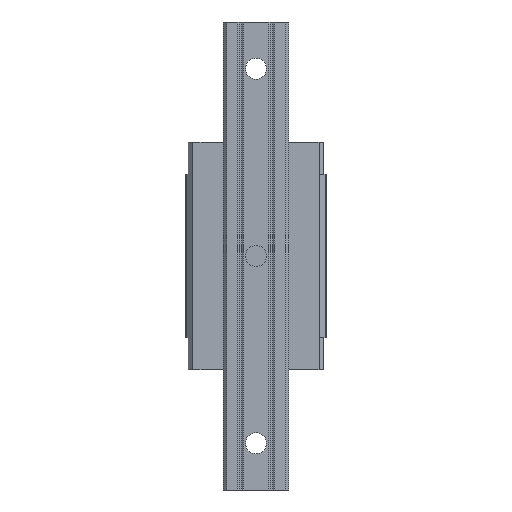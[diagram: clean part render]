
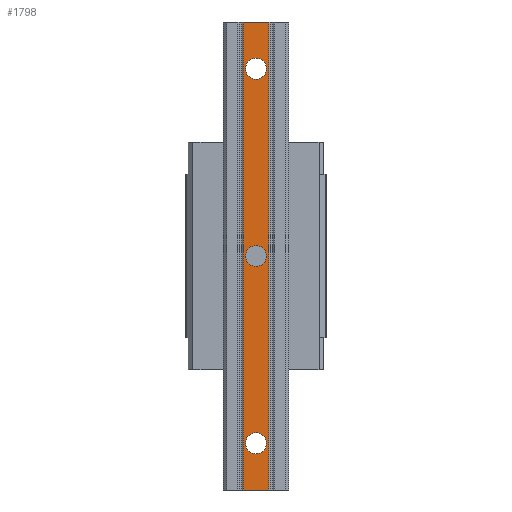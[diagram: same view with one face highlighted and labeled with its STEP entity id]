
A CAD part, front view. The second image highlights one B-rep face of the part: STEP entity #1798.
In plain terms, the highlighted planar face has unit normal (0, -1, 0).
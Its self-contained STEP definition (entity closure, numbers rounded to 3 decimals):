
#53 = CARTESIAN_POINT ( 'NONE',  ( 5.55, -26., -100. ) ) ;
#142 = AXIS2_PLACEMENT_3D ( 'NONE', #4992, #693, #6902 ) ;
#146 = CARTESIAN_POINT ( 'NONE',  ( 5.55, -26., -100. ) ) ;
#158 = EDGE_CURVE ( 'NONE', #3264, #458, #840, .T. ) ;
#160 = VERTEX_POINT ( 'NONE', #7052 ) ;
#181 = DIRECTION ( 'NONE',  ( 1., 0., 0. ) ) ;
#212 = AXIS2_PLACEMENT_3D ( 'NONE', #324, #7981, #970 ) ;
#252 = ORIENTED_EDGE ( 'NONE', *, *, #6882, .T. ) ;
#267 = FACE_OUTER_BOUND ( 'NONE', #5766, .T. ) ;
#287 = EDGE_CURVE ( 'NONE', #5997, #7973, #5306, .T. ) ;
#324 = CARTESIAN_POINT ( 'NONE',  ( 0., -26., -80. ) ) ;
#330 = EDGE_CURVE ( 'NONE', #4136, #695, #5013, .T. ) ;
#333 = VECTOR ( 'NONE', #2527, 1000. ) ;
#391 = DIRECTION ( 'NONE',  ( 0., 1., 0. ) ) ;
#458 = VERTEX_POINT ( 'NONE', #665 ) ;
#465 = AXIS2_PLACEMENT_3D ( 'NONE', #2861, #7346, #3398 ) ;
#470 = ORIENTED_EDGE ( 'NONE', *, *, #6300, .F. ) ;
#665 = CARTESIAN_POINT ( 'NONE',  ( 5.55, -26., 100. ) ) ;
#693 = DIRECTION ( 'NONE',  ( 0., 1., 0. ) ) ;
#695 = VERTEX_POINT ( 'NONE', #3987 ) ;
#702 = EDGE_CURVE ( 'NONE', #5087, #3519, #4218, .T. ) ;
#708 = CARTESIAN_POINT ( 'NONE',  ( 4.5, -26., 0. ) ) ;
#709 = EDGE_CURVE ( 'NONE', #695, #3264, #6445, .T. ) ;
#726 = EDGE_LOOP ( 'NONE', ( #1500, #5403 ) ) ;
#840 = LINE ( 'NONE', #53, #333 ) ;
#858 = ORIENTED_EDGE ( 'NONE', *, *, #4333, .T. ) ;
#895 = CARTESIAN_POINT ( 'NONE',  ( 0., -26., -100. ) ) ;
#933 = CIRCLE ( 'NONE', #5513, 4.5 ) ;
#970 = DIRECTION ( 'NONE',  ( -1., 0., 0. ) ) ;
#1150 = VERTEX_POINT ( 'NONE', #708 ) ;
#1374 = CARTESIAN_POINT ( 'NONE',  ( 0., -26., 80. ) ) ;
#1495 = FACE_BOUND ( 'NONE', #6266, .T. ) ;
#1500 = ORIENTED_EDGE ( 'NONE', *, *, #5929, .T. ) ;
#1501 = DIRECTION ( 'NONE',  ( 0., 1., 0. ) ) ;
#1546 = CARTESIAN_POINT ( 'NONE',  ( -4.5, -26., 80. ) ) ;
#1734 = DIRECTION ( 'NONE',  ( 0., 1., 0. ) ) ;
#1770 = AXIS2_PLACEMENT_3D ( 'NONE', #5231, #6558, #5761 ) ;
#1798 = ADVANCED_FACE ( 'NONE', ( #7634, #1495, #3366, #267 ), #7726, .T. ) ;
#1987 = ORIENTED_EDGE ( 'NONE', *, *, #7694, .T. ) ;
#2360 = AXIS2_PLACEMENT_3D ( 'NONE', #1374, #1501, #6526 ) ;
#2472 = CIRCLE ( 'NONE', #142, 4.5 ) ;
#2527 = DIRECTION ( 'NONE',  ( 0., 0., 1. ) ) ;
#2861 = CARTESIAN_POINT ( 'NONE',  ( 0., -26., -80. ) ) ;
#2955 = DIRECTION ( 'NONE',  ( -1., 0., 0. ) ) ;
#3264 = VERTEX_POINT ( 'NONE', #146 ) ;
#3366 = FACE_BOUND ( 'NONE', #726, .T. ) ;
#3398 = DIRECTION ( 'NONE',  ( -1., 0., 0. ) ) ;
#3519 = VERTEX_POINT ( 'NONE', #5281 ) ;
#3640 = ORIENTED_EDGE ( 'NONE', *, *, #702, .T. ) ;
#3987 = CARTESIAN_POINT ( 'NONE',  ( -5.55, -26., -100. ) ) ;
#4136 = VERTEX_POINT ( 'NONE', #5629 ) ;
#4218 = CIRCLE ( 'NONE', #2360, 4.5 ) ;
#4333 = EDGE_CURVE ( 'NONE', #1150, #160, #6529, .T. ) ;
#4349 = ORIENTED_EDGE ( 'NONE', *, *, #158, .T. ) ;
#4566 = CARTESIAN_POINT ( 'NONE',  ( 0., -26., 100. ) ) ;
#4618 = DIRECTION ( 'NONE',  ( 1., 0., 0. ) ) ;
#4945 = CARTESIAN_POINT ( 'NONE',  ( 4.5, -26., -80. ) ) ;
#4967 = DIRECTION ( 'NONE',  ( 0., 0., -1. ) ) ;
#4992 = CARTESIAN_POINT ( 'NONE',  ( 0., -26., 0. ) ) ;
#5013 = LINE ( 'NONE', #5549, #6769 ) ;
#5087 = VERTEX_POINT ( 'NONE', #1546 ) ;
#5152 = ORIENTED_EDGE ( 'NONE', *, *, #709, .T. ) ;
#5231 = CARTESIAN_POINT ( 'NONE',  ( -5.55, -26., -100. ) ) ;
#5281 = CARTESIAN_POINT ( 'NONE',  ( 4.5, -26., 80. ) ) ;
#5306 = CIRCLE ( 'NONE', #465, 4.5 ) ;
#5403 = ORIENTED_EDGE ( 'NONE', *, *, #287, .T. ) ;
#5513 = AXIS2_PLACEMENT_3D ( 'NONE', #7969, #391, #7925 ) ;
#5549 = CARTESIAN_POINT ( 'NONE',  ( -5.55, -26., -100. ) ) ;
#5629 = CARTESIAN_POINT ( 'NONE',  ( -5.55, -26., 100. ) ) ;
#5739 = ORIENTED_EDGE ( 'NONE', *, *, #330, .T. ) ;
#5761 = DIRECTION ( 'NONE',  ( 0., 0., -1. ) ) ;
#5766 = EDGE_LOOP ( 'NONE', ( #4349, #470, #5739, #5152 ) ) ;
#5929 = EDGE_CURVE ( 'NONE', #7973, #5997, #8101, .T. ) ;
#5997 = VERTEX_POINT ( 'NONE', #4945 ) ;
#6266 = EDGE_LOOP ( 'NONE', ( #3640, #252 ) ) ;
#6300 = EDGE_CURVE ( 'NONE', #4136, #458, #6346, .T. ) ;
#6346 = LINE ( 'NONE', #4566, #6525 ) ;
#6445 = LINE ( 'NONE', #895, #7010 ) ;
#6525 = VECTOR ( 'NONE', #181, 1000. ) ;
#6526 = DIRECTION ( 'NONE',  ( -1., 0., 0. ) ) ;
#6529 = CIRCLE ( 'NONE', #7207, 4.5 ) ;
#6558 = DIRECTION ( 'NONE',  ( 0., -1., 0. ) ) ;
#6601 = CARTESIAN_POINT ( 'NONE',  ( 0., -26., 0. ) ) ;
#6769 = VECTOR ( 'NONE', #4967, 1000. ) ;
#6882 = EDGE_CURVE ( 'NONE', #3519, #5087, #933, .T. ) ;
#6902 = DIRECTION ( 'NONE',  ( -1., 0., 0. ) ) ;
#7010 = VECTOR ( 'NONE', #4618, 1000. ) ;
#7052 = CARTESIAN_POINT ( 'NONE',  ( -4.5, -26., 0. ) ) ;
#7207 = AXIS2_PLACEMENT_3D ( 'NONE', #6601, #1734, #2955 ) ;
#7346 = DIRECTION ( 'NONE',  ( 0., 1., 0. ) ) ;
#7521 = CARTESIAN_POINT ( 'NONE',  ( -4.5, -26., -80. ) ) ;
#7634 = FACE_BOUND ( 'NONE', #8153, .T. ) ;
#7694 = EDGE_CURVE ( 'NONE', #160, #1150, #2472, .T. ) ;
#7726 = PLANE ( 'NONE',  #1770 ) ;
#7925 = DIRECTION ( 'NONE',  ( -1., 0., 0. ) ) ;
#7969 = CARTESIAN_POINT ( 'NONE',  ( 0., -26., 80. ) ) ;
#7973 = VERTEX_POINT ( 'NONE', #7521 ) ;
#7981 = DIRECTION ( 'NONE',  ( 0., 1., 0. ) ) ;
#8101 = CIRCLE ( 'NONE', #212, 4.5 ) ;
#8153 = EDGE_LOOP ( 'NONE', ( #1987, #858 ) ) ;
